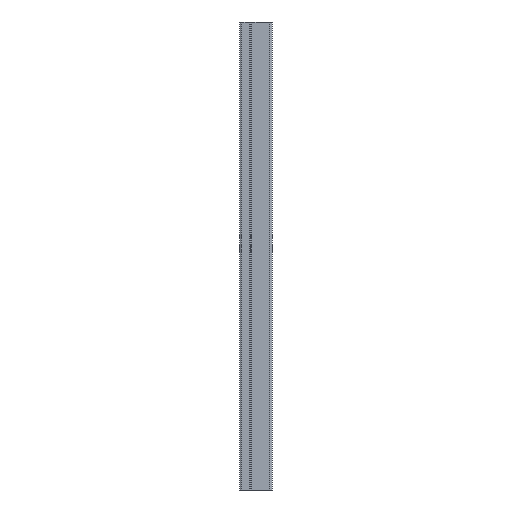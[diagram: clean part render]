
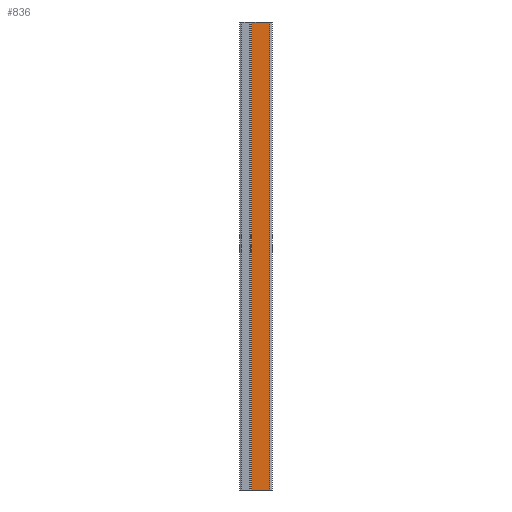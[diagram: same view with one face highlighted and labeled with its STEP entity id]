
A CAD part, front view. The second image highlights one B-rep face of the part: STEP entity #836.
In plain terms, the highlighted planar face has unit normal (0, -1, 0).
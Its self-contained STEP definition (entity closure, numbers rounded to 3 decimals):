
#29 = DIRECTION ( 'NONE',  ( 0., 0., -1. ) ) ;
#48 = PLANE ( 'NONE',  #454 ) ;
#83 = CARTESIAN_POINT ( 'NONE',  ( -22.5, -12.5, 250. ) ) ;
#86 = CARTESIAN_POINT ( 'NONE',  ( -9.45, -12.5, -250. ) ) ;
#111 = EDGE_CURVE ( 'NONE', #1310, #1355, #137, .T. ) ;
#137 = LINE ( 'NONE', #1236, #294 ) ;
#151 = LINE ( 'NONE', #181, #1540 ) ;
#155 = LINE ( 'NONE', #1008, #714 ) ;
#181 = CARTESIAN_POINT ( 'NONE',  ( -22.5, -12.5, 250. ) ) ;
#185 = ORIENTED_EDGE ( 'NONE', *, *, #111, .T. ) ;
#196 = DIRECTION ( 'NONE',  ( -1., 0., 0. ) ) ;
#205 = CARTESIAN_POINT ( 'NONE',  ( 9.5, -12.5, 250. ) ) ;
#281 = ORIENTED_EDGE ( 'NONE', *, *, #885, .T. ) ;
#294 = VECTOR ( 'NONE', #1284, 1000. ) ;
#308 = CARTESIAN_POINT ( 'NONE',  ( -9.45, -12.5, 250. ) ) ;
#402 = VECTOR ( 'NONE', #576, 1000. ) ;
#412 = ORIENTED_EDGE ( 'NONE', *, *, #567, .T. ) ;
#446 = EDGE_LOOP ( 'NONE', ( #185, #281, #1075, #412 ) ) ;
#454 = AXIS2_PLACEMENT_3D ( 'NONE', #83, #542, #196 ) ;
#477 = CARTESIAN_POINT ( 'NONE',  ( 9.5, -12.5, -250. ) ) ;
#542 = DIRECTION ( 'NONE',  ( 0., 1., 0. ) ) ;
#543 = DIRECTION ( 'NONE',  ( 1., 0., 0. ) ) ;
#567 = EDGE_CURVE ( 'NONE', #886, #1310, #155, .T. ) ;
#576 = DIRECTION ( 'NONE',  ( 0., 0., 1. ) ) ;
#684 = FACE_OUTER_BOUND ( 'NONE', #446, .T. ) ;
#714 = VECTOR ( 'NONE', #29, 1000. ) ;
#814 = CARTESIAN_POINT ( 'NONE',  ( 9.5, -12.5, 250. ) ) ;
#836 = ADVANCED_FACE ( 'NONE', ( #684 ), #48, .F. ) ;
#885 = EDGE_CURVE ( 'NONE', #1355, #941, #1563, .T. ) ;
#886 = VERTEX_POINT ( 'NONE', #308 ) ;
#941 = VERTEX_POINT ( 'NONE', #814 ) ;
#1008 = CARTESIAN_POINT ( 'NONE',  ( -9.45, -12.5, 250. ) ) ;
#1075 = ORIENTED_EDGE ( 'NONE', *, *, #1608, .F. ) ;
#1236 = CARTESIAN_POINT ( 'NONE',  ( -22.5, -12.5, -250. ) ) ;
#1284 = DIRECTION ( 'NONE',  ( 1., 0., 0. ) ) ;
#1310 = VERTEX_POINT ( 'NONE', #86 ) ;
#1355 = VERTEX_POINT ( 'NONE', #477 ) ;
#1540 = VECTOR ( 'NONE', #543, 1000. ) ;
#1563 = LINE ( 'NONE', #205, #402 ) ;
#1608 = EDGE_CURVE ( 'NONE', #886, #941, #151, .T. ) ;
